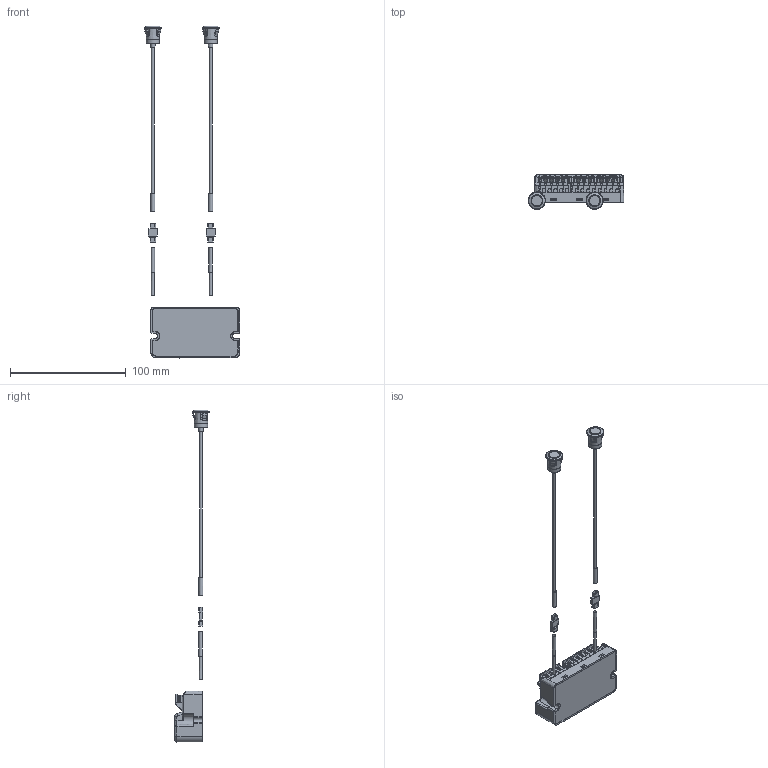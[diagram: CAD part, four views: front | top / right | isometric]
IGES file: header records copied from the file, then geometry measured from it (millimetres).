
Start section: SolidWorks IGES file using analytic representation for surfaces
Global section: file name: C:\Users\10118109\Desktop\档绢季辑, 俊府绢季辑\2瞒 累诀_荐沥\ADS-SE1,2\ADS-SE2.IGS,15HSolidWorks; native system: 2018; preprocessor: SolidWorks 2018; author: 10118109; date: 190618.083155; units: millimetre
Bounding box: 82.68 x 30.44 x 287.08 mm (x, y, z)
Surface area: 31533.2 mm2 (no closed solid volume)
Topology: 0 solids, 0 shells, 2130 faces, 17537 edges, 17511 vertices
Faces by surface type: bspline 1649, revolution 481
